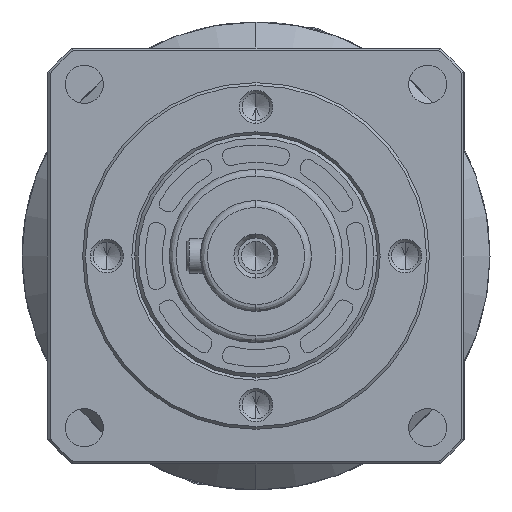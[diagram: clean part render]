
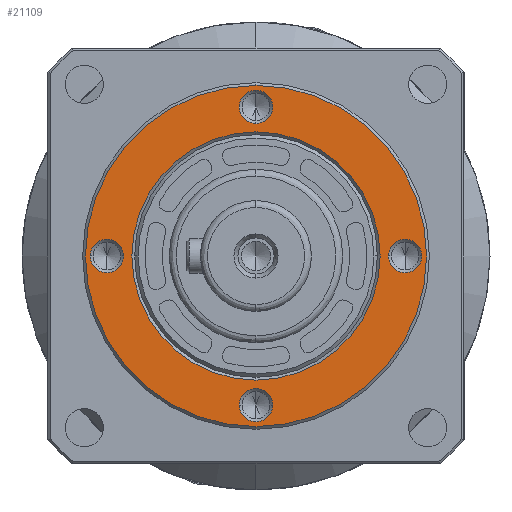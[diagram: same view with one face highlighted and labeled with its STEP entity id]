
A CAD part, left-side view. The second image highlights one B-rep face of the part: STEP entity #21109.
In plain terms, the highlighted planar face has unit normal (-1, 0, 0).
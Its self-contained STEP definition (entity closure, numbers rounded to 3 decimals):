
#120 = DIRECTION ( 'NONE',  ( 0., 0., -1. ) ) ;
#163 = EDGE_CURVE ( 'NONE', #15007, #17924, #21237, .T. ) ;
#175 = DIRECTION ( 'NONE',  ( -1., 0., 0. ) ) ;
#487 = CIRCLE ( 'NONE', #22541, 24.6 ) ;
#714 = CARTESIAN_POINT ( 'NONE',  ( -7., 0., 0. ) ) ;
#1125 = VERTEX_POINT ( 'NONE', #6568 ) ;
#1212 = EDGE_LOOP ( 'NONE', ( #5663, #12302 ) ) ;
#1424 = DIRECTION ( 'NONE',  ( 0., -1., 0. ) ) ;
#1656 = CARTESIAN_POINT ( 'NONE',  ( -7., 0., 17.9 ) ) ;
#1927 = EDGE_CURVE ( 'NONE', #9815, #1125, #5302, .T. ) ;
#2013 = EDGE_CURVE ( 'NONE', #5481, #11094, #487, .T. ) ;
#2054 = DIRECTION ( 'NONE',  ( 0., 0., 1. ) ) ;
#2235 = DIRECTION ( 'NONE',  ( -1., 0., 0. ) ) ;
#2497 = EDGE_LOOP ( 'NONE', ( #20970, #5171 ) ) ;
#2678 = ORIENTED_EDGE ( 'NONE', *, *, #20031, .F. ) ;
#2685 = DIRECTION ( 'NONE',  ( 1., 0., 0. ) ) ;
#2802 = EDGE_LOOP ( 'NONE', ( #6249, #2678 ) ) ;
#3191 = AXIS2_PLACEMENT_3D ( 'NONE', #7590, #13376, #15033 ) ;
#3193 = AXIS2_PLACEMENT_3D ( 'NONE', #13005, #3800, #120 ) ;
#3800 = DIRECTION ( 'NONE',  ( 1., 0., 0. ) ) ;
#3857 = CARTESIAN_POINT ( 'NONE',  ( -7., 0., -24.6 ) ) ;
#3866 = CARTESIAN_POINT ( 'NONE',  ( -7., 0., 21.5 ) ) ;
#3958 = AXIS2_PLACEMENT_3D ( 'NONE', #3866, #175, #2054 ) ;
#3988 = AXIS2_PLACEMENT_3D ( 'NONE', #7789, #2235, #15079 ) ;
#4343 = DIRECTION ( 'NONE',  ( -1., 0., 0. ) ) ;
#4371 = FACE_OUTER_BOUND ( 'NONE', #20460, .T. ) ;
#5088 = DIRECTION ( 'NONE',  ( 0., -1., 0. ) ) ;
#5153 = DIRECTION ( 'NONE',  ( -1., 0., 0. ) ) ;
#5171 = ORIENTED_EDGE ( 'NONE', *, *, #19716, .F. ) ;
#5178 = EDGE_LOOP ( 'NONE', ( #22722, #6692 ) ) ;
#5302 = CIRCLE ( 'NONE', #14060, 2.4 ) ;
#5481 = VERTEX_POINT ( 'NONE', #20954 ) ;
#5663 = ORIENTED_EDGE ( 'NONE', *, *, #22356, .F. ) ;
#5666 = VERTEX_POINT ( 'NONE', #21977 ) ;
#5779 = DIRECTION ( 'NONE',  ( -1., 0., 0. ) ) ;
#5964 = CARTESIAN_POINT ( 'NONE',  ( -7., -23.9, 0. ) ) ;
#6048 = DIRECTION ( 'NONE',  ( -1., 0., 0. ) ) ;
#6249 = ORIENTED_EDGE ( 'NONE', *, *, #22834, .F. ) ;
#6483 = CIRCLE ( 'NONE', #9612, 2.4 ) ;
#6568 = CARTESIAN_POINT ( 'NONE',  ( -7., 2.4, -21.5 ) ) ;
#6667 = FACE_BOUND ( 'NONE', #2802, .T. ) ;
#6692 = ORIENTED_EDGE ( 'NONE', *, *, #14526, .F. ) ;
#6927 = CIRCLE ( 'NONE', #3988, 2.4 ) ;
#7235 = PLANE ( 'NONE',  #3193 ) ;
#7590 = CARTESIAN_POINT ( 'NONE',  ( -7., 21.5, 0. ) ) ;
#7789 = CARTESIAN_POINT ( 'NONE',  ( -7., 0., 21.5 ) ) ;
#7874 = VERTEX_POINT ( 'NONE', #12419 ) ;
#7960 = CARTESIAN_POINT ( 'NONE',  ( -7., 23.9, 0. ) ) ;
#8048 = FACE_BOUND ( 'NONE', #23261, .T. ) ;
#8807 = DIRECTION ( 'NONE',  ( 0., -1., 0. ) ) ;
#8884 = CARTESIAN_POINT ( 'NONE',  ( -7., 0., 0. ) ) ;
#9612 = AXIS2_PLACEMENT_3D ( 'NONE', #10561, #12376, #5088 ) ;
#9815 = VERTEX_POINT ( 'NONE', #11386 ) ;
#9896 = ORIENTED_EDGE ( 'NONE', *, *, #12293, .F. ) ;
#10409 = EDGE_CURVE ( 'NONE', #17456, #5666, #6483, .T. ) ;
#10561 = CARTESIAN_POINT ( 'NONE',  ( -7., -21.5, 0. ) ) ;
#10746 = EDGE_CURVE ( 'NONE', #11094, #5481, #14396, .T. ) ;
#10868 = CARTESIAN_POINT ( 'NONE',  ( -7., 0., -21.5 ) ) ;
#11094 = VERTEX_POINT ( 'NONE', #3857 ) ;
#11386 = CARTESIAN_POINT ( 'NONE',  ( -7., -2.4, -21.5 ) ) ;
#11910 = CIRCLE ( 'NONE', #23221, 17.9 ) ;
#11990 = CARTESIAN_POINT ( 'NONE',  ( -7., 0., -17.9 ) ) ;
#12244 = CARTESIAN_POINT ( 'NONE',  ( -7., -21.5, 0. ) ) ;
#12281 = CARTESIAN_POINT ( 'NONE',  ( -7., 0., -21.5 ) ) ;
#12293 = EDGE_CURVE ( 'NONE', #1125, #9815, #18312, .T. ) ;
#12302 = ORIENTED_EDGE ( 'NONE', *, *, #163, .F. ) ;
#12376 = DIRECTION ( 'NONE',  ( -1., 0., 0. ) ) ;
#12419 = CARTESIAN_POINT ( 'NONE',  ( -7., 0., 19.1 ) ) ;
#12686 = DIRECTION ( 'NONE',  ( 0., -1., 0. ) ) ;
#12771 = DIRECTION ( 'NONE',  ( 1., 0., 0. ) ) ;
#13005 = CARTESIAN_POINT ( 'NONE',  ( -7., 25., 0. ) ) ;
#13171 = FACE_BOUND ( 'NONE', #5178, .T. ) ;
#13376 = DIRECTION ( 'NONE',  ( -1., 0., 0. ) ) ;
#13454 = DIRECTION ( 'NONE',  ( -1., 0., 0. ) ) ;
#14020 = CARTESIAN_POINT ( 'NONE',  ( -7., 0., 23.9 ) ) ;
#14060 = AXIS2_PLACEMENT_3D ( 'NONE', #10868, #14347, #12686 ) ;
#14347 = DIRECTION ( 'NONE',  ( -1., 0., 0. ) ) ;
#14396 = CIRCLE ( 'NONE', #17534, 24.6 ) ;
#14526 = EDGE_CURVE ( 'NONE', #5666, #17456, #17943, .T. ) ;
#15007 = VERTEX_POINT ( 'NONE', #7960 ) ;
#15033 = DIRECTION ( 'NONE',  ( 0., -1., 0. ) ) ;
#15079 = DIRECTION ( 'NONE',  ( 0., 0., 1. ) ) ;
#15219 = CARTESIAN_POINT ( 'NONE',  ( -7., 0., 0. ) ) ;
#16114 = EDGE_CURVE ( 'NONE', #23282, #17104, #11910, .T. ) ;
#16635 = AXIS2_PLACEMENT_3D ( 'NONE', #20608, #6048, #22401 ) ;
#17104 = VERTEX_POINT ( 'NONE', #11990 ) ;
#17134 = FACE_BOUND ( 'NONE', #2497, .T. ) ;
#17456 = VERTEX_POINT ( 'NONE', #5964 ) ;
#17534 = AXIS2_PLACEMENT_3D ( 'NONE', #15219, #2685, #22404 ) ;
#17924 = VERTEX_POINT ( 'NONE', #21846 ) ;
#17943 = CIRCLE ( 'NONE', #19167, 2.4 ) ;
#18312 = CIRCLE ( 'NONE', #21672, 2.4 ) ;
#18683 = DIRECTION ( 'NONE',  ( 0., -1., 0. ) ) ;
#18870 = DIRECTION ( 'NONE',  ( 0., 0., 1. ) ) ;
#19167 = AXIS2_PLACEMENT_3D ( 'NONE', #12244, #13454, #8807 ) ;
#19477 = ORIENTED_EDGE ( 'NONE', *, *, #2013, .F. ) ;
#19689 = CIRCLE ( 'NONE', #22331, 2.4 ) ;
#19716 = EDGE_CURVE ( 'NONE', #17104, #23282, #20051, .T. ) ;
#19834 = DIRECTION ( 'NONE',  ( 0., 0., -1. ) ) ;
#19883 = VERTEX_POINT ( 'NONE', #14020 ) ;
#20031 = EDGE_CURVE ( 'NONE', #7874, #19883, #22271, .T. ) ;
#20051 = CIRCLE ( 'NONE', #16635, 17.9 ) ;
#20419 = CARTESIAN_POINT ( 'NONE',  ( -7., 21.5, 0. ) ) ;
#20460 = EDGE_LOOP ( 'NONE', ( #20483, #19477 ) ) ;
#20483 = ORIENTED_EDGE ( 'NONE', *, *, #10746, .F. ) ;
#20608 = CARTESIAN_POINT ( 'NONE',  ( -7., 0., 0. ) ) ;
#20954 = CARTESIAN_POINT ( 'NONE',  ( -7., 0., 24.6 ) ) ;
#20970 = ORIENTED_EDGE ( 'NONE', *, *, #16114, .F. ) ;
#21109 = ADVANCED_FACE ( 'NONE', ( #4371, #22491, #8048, #6667, #13171, #17134 ), #7235, .F. ) ;
#21237 = CIRCLE ( 'NONE', #3191, 2.4 ) ;
#21269 = ORIENTED_EDGE ( 'NONE', *, *, #1927, .F. ) ;
#21672 = AXIS2_PLACEMENT_3D ( 'NONE', #12281, #5153, #1424 ) ;
#21846 = CARTESIAN_POINT ( 'NONE',  ( -7., 19.1, 0. ) ) ;
#21977 = CARTESIAN_POINT ( 'NONE',  ( -7., -19.1, 0. ) ) ;
#22271 = CIRCLE ( 'NONE', #3958, 2.4 ) ;
#22331 = AXIS2_PLACEMENT_3D ( 'NONE', #20419, #5779, #18683 ) ;
#22356 = EDGE_CURVE ( 'NONE', #17924, #15007, #19689, .T. ) ;
#22401 = DIRECTION ( 'NONE',  ( 0., 0., 1. ) ) ;
#22404 = DIRECTION ( 'NONE',  ( 0., 0., -1. ) ) ;
#22491 = FACE_BOUND ( 'NONE', #1212, .T. ) ;
#22541 = AXIS2_PLACEMENT_3D ( 'NONE', #8884, #12771, #19834 ) ;
#22722 = ORIENTED_EDGE ( 'NONE', *, *, #10409, .F. ) ;
#22834 = EDGE_CURVE ( 'NONE', #19883, #7874, #6927, .T. ) ;
#23221 = AXIS2_PLACEMENT_3D ( 'NONE', #714, #4343, #18870 ) ;
#23261 = EDGE_LOOP ( 'NONE', ( #21269, #9896 ) ) ;
#23282 = VERTEX_POINT ( 'NONE', #1656 ) ;
